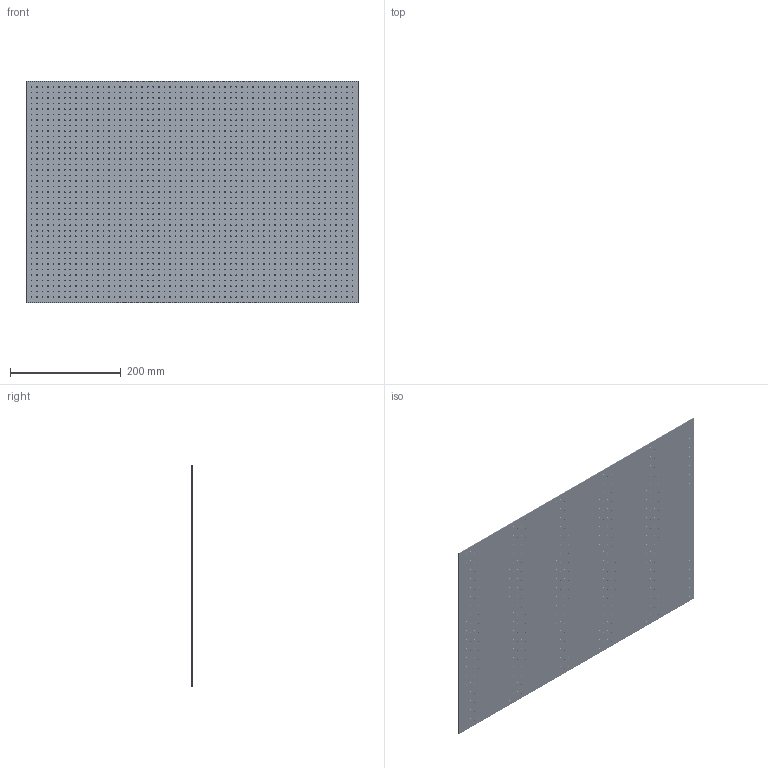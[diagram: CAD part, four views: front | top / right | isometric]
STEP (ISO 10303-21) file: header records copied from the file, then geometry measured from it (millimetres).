
FILE_DESCRIPTION (( 'STEP AP203' ), '1' );
FILE_NAME ('130358.0006.VT00423 InClaMat-Green.STEP', '2013-11-11T08:46:25', ( '' ), ( '' ), 'SwSTEP 2.0', 'SolidWorks 2013', '' );
FILE_SCHEMA (( 'CONFIG_CONTROL_DESIGN' ));
Products named in the file (1): 130358.0006.VT00423 InClaMat-Green
Bounding box: 600 x 1 x 400 mm (x, y, z)
Volume: 238192.8 mm3; surface area: 485614.4 mm2
Topology: 1 solids, 1 shells, 4608 faces, 13818 edges, 9212 vertices
Faces by surface type: cylinder 4602, plane 6
Entity records: 170507 total; most frequent: DIRECTION 32240, CARTESIAN_POINT 27639, ORIENTED_EDGE 27636, EDGE_CURVE 13818, AXIS2_PLACEMENT_3D 13813, VERTEX_POINT 9212, EDGE_LOOP 9210, CIRCLE 9204
